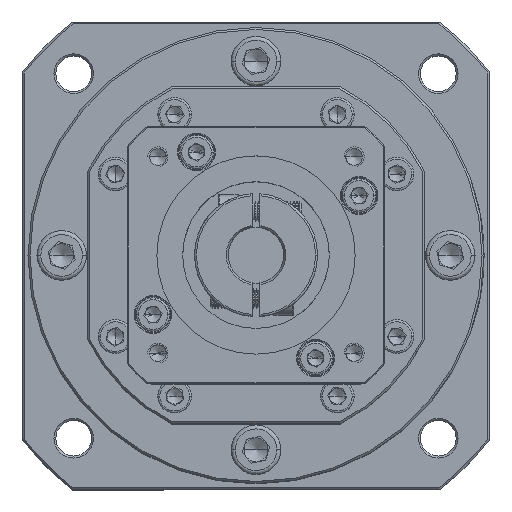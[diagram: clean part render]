
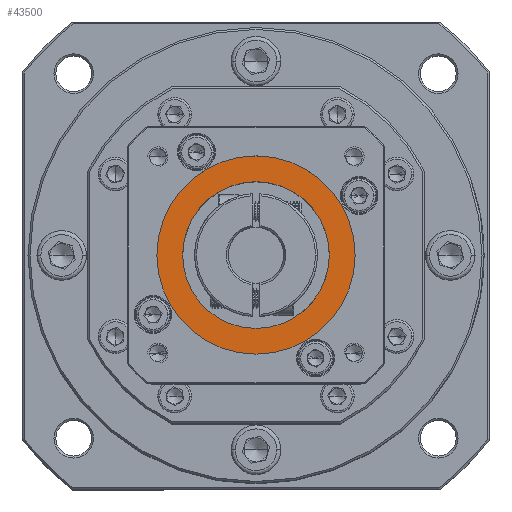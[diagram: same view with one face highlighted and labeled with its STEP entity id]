
A CAD part, top view. The second image highlights one B-rep face of the part: STEP entity #43500.
In plain terms, the highlighted planar face has unit normal (0, 0, 1).
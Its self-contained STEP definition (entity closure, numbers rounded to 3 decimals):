
#1544 = CARTESIAN_POINT ( 'NONE',  ( -90.965, 28.164, 34.491 ) ) ;
#2125 = CARTESIAN_POINT ( 'NONE',  ( -97.465, 28.164, 34.491 ) ) ;
#2277 = PLANE ( 'NONE',  #114317 ) ;
#2656 = AXIS2_PLACEMENT_3D ( 'NONE', #27202, #91365, #36444 ) ;
#7092 = CARTESIAN_POINT ( 'NONE',  ( -72.465, 28.164, 34.491 ) ) ;
#13294 = DIRECTION ( 'NONE',  ( 0., 0., -1. ) ) ;
#14141 = CARTESIAN_POINT ( 'NONE',  ( -72.465, 28.164, 34.491 ) ) ;
#14365 = VERTEX_POINT ( 'NONE', #2125 ) ;
#15629 = EDGE_CURVE ( 'NONE', #43157, #14365, #28443, .T. ) ;
#16329 = DIRECTION ( 'NONE',  ( 1., 0., 0. ) ) ;
#17966 = EDGE_CURVE ( 'NONE', #14365, #43157, #101173, .T. ) ;
#23344 = ORIENTED_EDGE ( 'NONE', *, *, #72854, .T. ) ;
#23432 = DIRECTION ( 'NONE',  ( 1., 0., 0. ) ) ;
#27202 = CARTESIAN_POINT ( 'NONE',  ( -72.465, 28.164, 34.491 ) ) ;
#28443 = CIRCLE ( 'NONE', #2656, 25. ) ;
#31685 = VERTEX_POINT ( 'NONE', #50592 ) ;
#36444 = DIRECTION ( 'NONE',  ( 1., 0., 0. ) ) ;
#36921 = CARTESIAN_POINT ( 'NONE',  ( -47.465, 28.164, 34.491 ) ) ;
#39175 = CARTESIAN_POINT ( 'NONE',  ( -72.465, 28.164, 34.491 ) ) ;
#39601 = AXIS2_PLACEMENT_3D ( 'NONE', #68212, #13294, #77412 ) ;
#43157 = VERTEX_POINT ( 'NONE', #36921 ) ;
#43500 = ADVANCED_FACE ( 'NONE', ( #65797, #87295 ), #2277, .T. ) ;
#44773 = EDGE_LOOP ( 'NONE', ( #52809, #23344 ) ) ;
#48434 = DIRECTION ( 'NONE',  ( 1., 0., 0. ) ) ;
#49326 = AXIS2_PLACEMENT_3D ( 'NONE', #14141, #78310, #23432 ) ;
#50592 = CARTESIAN_POINT ( 'NONE',  ( -53.965, 28.164, 34.491 ) ) ;
#51886 = EDGE_LOOP ( 'NONE', ( #99132, #104580 ) ) ;
#52809 = ORIENTED_EDGE ( 'NONE', *, *, #58382, .T. ) ;
#58382 = EDGE_CURVE ( 'NONE', #31685, #110529, #60970, .T. ) ;
#60125 = CIRCLE ( 'NONE', #39601, 18.5 ) ;
#60970 = CIRCLE ( 'NONE', #68204, 18.5 ) ;
#65797 = FACE_OUTER_BOUND ( 'NONE', #51886, .T. ) ;
#68204 = AXIS2_PLACEMENT_3D ( 'NONE', #7092, #71269, #16329 ) ;
#68212 = CARTESIAN_POINT ( 'NONE',  ( -72.465, 28.164, 34.491 ) ) ;
#71269 = DIRECTION ( 'NONE',  ( 0., 0., -1. ) ) ;
#72854 = EDGE_CURVE ( 'NONE', #110529, #31685, #60125, .T. ) ;
#77412 = DIRECTION ( 'NONE',  ( 1., 0., 0. ) ) ;
#78310 = DIRECTION ( 'NONE',  ( 0., 0., 1. ) ) ;
#87295 = FACE_BOUND ( 'NONE', #44773, .T. ) ;
#91365 = DIRECTION ( 'NONE',  ( 0., 0., 1. ) ) ;
#99132 = ORIENTED_EDGE ( 'NONE', *, *, #15629, .T. ) ;
#101173 = CIRCLE ( 'NONE', #49326, 25. ) ;
#103285 = DIRECTION ( 'NONE',  ( 0., 0., 1. ) ) ;
#104580 = ORIENTED_EDGE ( 'NONE', *, *, #17966, .T. ) ;
#110529 = VERTEX_POINT ( 'NONE', #1544 ) ;
#114317 = AXIS2_PLACEMENT_3D ( 'NONE', #39175, #103285, #48434 ) ;
